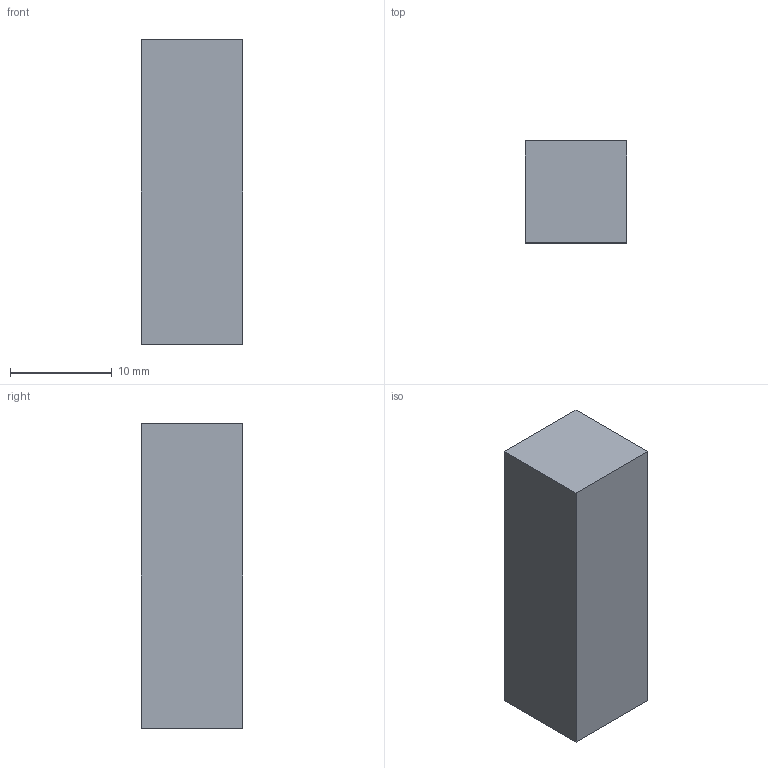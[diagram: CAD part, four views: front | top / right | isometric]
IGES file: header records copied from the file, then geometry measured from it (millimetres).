
Start section: DESIGNBASE IGES
Global section: file name: C:\CAD\FEM\MagTest\Test1\magnet.igs; native system: RICOH DESIGNBASE V13; preprocessor: IGES PREPROCESSOR V13; author: unknown; organization: unknown; date: 20150705.170718; units: metre
Bounding box: 10 x 10 x 30 mm (x, y, z)
Volume: 3000 mm3; surface area: 1400 mm2
Topology: 1 solids, 1 shells, 6 faces, 12 edges, 8 vertices
Faces by surface type: bspline 6
